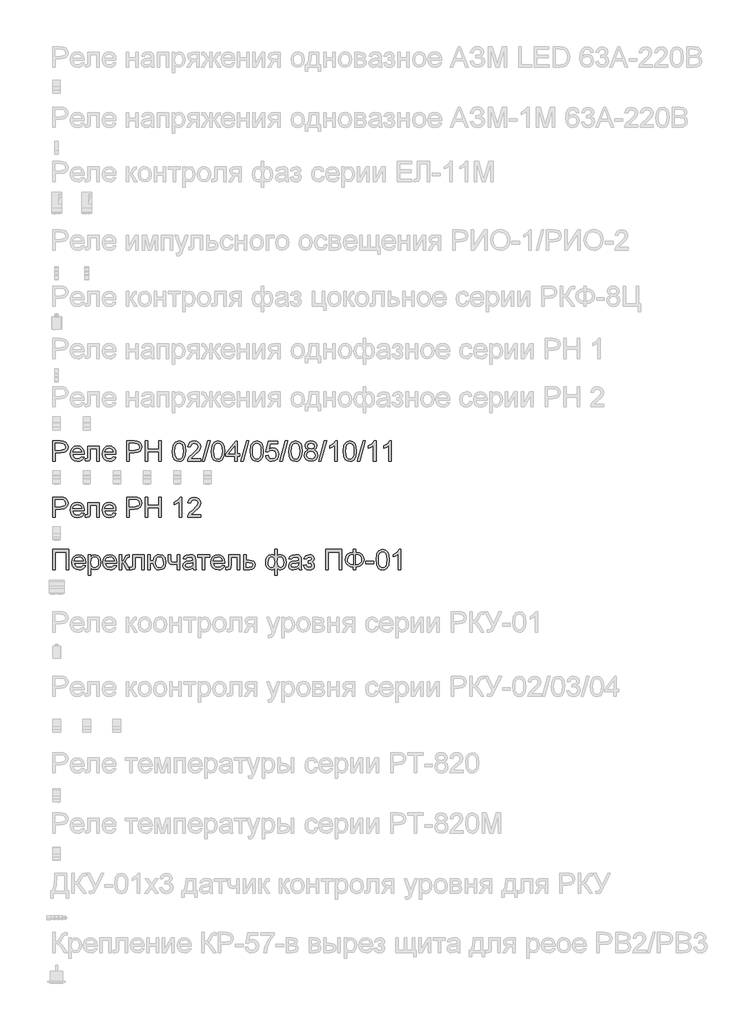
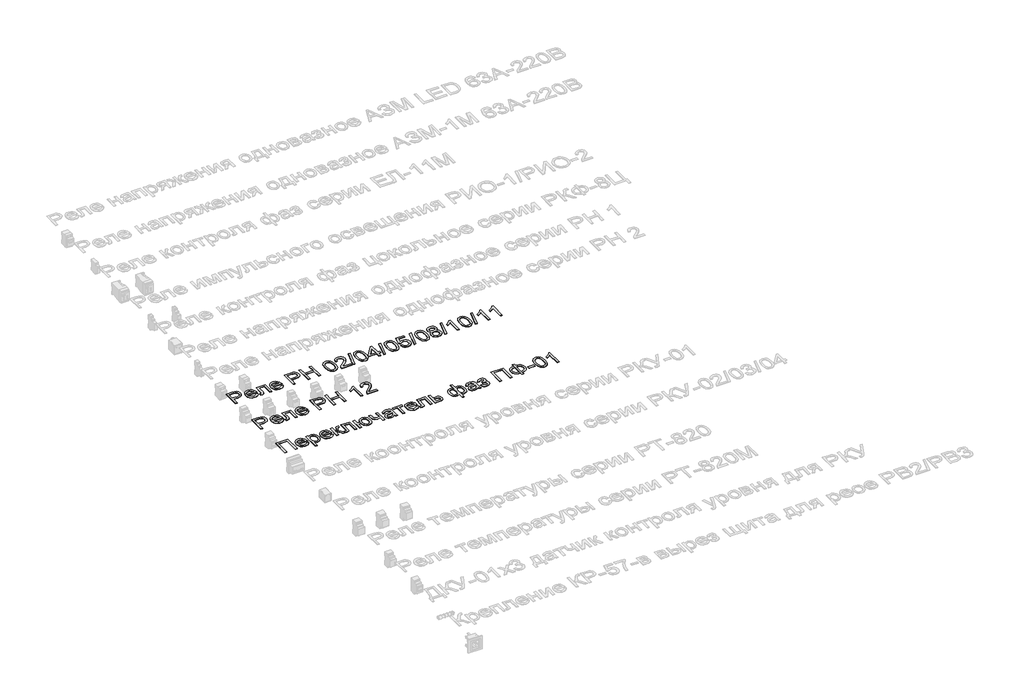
# One storey, part 4 of 34: 3 proxies.
"""IFC4 building model written with IfcOpenShell, lengths in millimetres."""

from ifc_helpers import new_model, si_unit, frame, origin, place, context, project, spatial, polyline, outline, extrude, element, save

model = new_model("IFC4")

# Units and contexts
model_context = context("Model", 3, world=origin())
ifc_project = project(units=[si_unit("LENGTHUNIT", "METRE", prefix="MILLI")], contexts=[model_context])

# Site, building, storey
site = spatial("IfcSite", under=ifc_project)
building = spatial("IfcBuilding", under=site)
storey = spatial("IfcBuildingStorey", under=building, Name="Этаж 01", Elevation=0.0)

# Proxies
placement = place(None, origin())
element("IfcBuildingElementProxy", 1, Name="Надпись на модели 1", ObjectType="Надпись на модели 1", at=placement, inside=storey, context=model_context, shape_type="SweptSolid", body=[
    extrude(outline(polyline([(-19039.0125911, 9936.235284), (-19039.0125911, 10036.6915941), (-19001.7829332, 10036.6915941), (-18986.7733478, 10035.735101), (-18974.5719283, 10031.0384742), (-18966.6624654, 10021.3263895), (-18963.6703585, 10007.6289165), (-18965.6906438, 9995.7892476), (-18971.7514996, 9985.9238788), (-18983.0853308, 9979.2652147), (-19000.9245418, 9977.04566), (-19026.4555523, 9977.04566), (-19026.4555523, 9936.235284), (-19039.0125911, 9936.235284)]), holes=[polyline([(-19026.4555523, 9989.6026988), (-19000.1887779, 9989.6026988), (-18981.6965762, 9994.2134864), (-18977.594692, 9999.7623732), (-18976.2273972, 10007.1874581), (-18979.4524961, 10017.5862559), (-18987.9260447, 10023.2761641), (-19000.4830834, 10024.1345554), (-19026.4555523, 10024.1345554), (-19026.4555523, 9989.6026988)])]), frame((0.0, 0.0, 40.0), z_axis=(0.0, 0.0, 1.0), x_axis=(1.0, 0.0, 0.0)), (0.0, 0.0, 1.0), 2.0),
    extrude(outline(polyline([(-18896.3234279, 9958.2101018), (-18884.0116438, 9956.640472), (-18888.4476875, 9947.3637143), (-18895.5263502, 9940.4291387), (-18905.0882164, 9936.1065253), (-18916.9738705, 9934.6656541), (-18931.7075445, 9937.1519233), (-18943.0444413, 9944.6107308), (-18950.2733225, 9956.5576985), (-18952.6829495, 9972.5084487), (-18950.248797, 9988.9956935), (-18942.9463394, 10001.3258717), (-18931.7627268, 10009.0146054), (-18917.6851091, 10011.5775166), (-18904.0458841, 10009.0207367), (-18893.14738, 10001.3503971), (-18886.0012722, 9989.0447444), (-18883.6192363, 9972.5820251), (-18883.6928127, 9969.1975108), (-18940.1259108, 9969.1975108), (-18937.9523413, 9959.7981258), (-18932.9031609, 9952.8880756), (-18925.6160317, 9948.6390386), (-18916.7286159, 9947.2226929), (-18904.4168318, 9949.8469178), (-18896.3234279, 9958.2101018)]), holes=[polyline([(-18940.1259108, 9981.7545495), (-18896.1762751, 9981.7545495), (-18901.2039957, 9993.1343659), (-18908.5248474, 9997.5489499), (-18917.73416, 9999.0204778), (-18933.1974665, 9994.323851), (-18938.0627059, 9988.8332123), (-18940.1259108, 9981.7545495)])]), frame((0.0, 0.0, 40.0), z_axis=(0.0, 0.0, 1.0), x_axis=(1.0, 0.0, 0.0)), (0.0, 0.0, 1.0), 2.0),
    extrude(outline(polyline([(-18864.7836782, 10010.0078868), (-18808.2770037, 10010.0078868), (-18808.2770037, 9936.3088604), (-18820.8340425, 9936.3088604), (-18820.8340425, 9997.450848), (-18852.2266394, 9997.450848), (-18852.2266394, 9962.2568038), (-18853.072768, 9946.0209451), (-18857.7203439, 9939.1660772), (-18868.7077528, 9936.235284), (-18878.9103468, 9936.8729461), (-18878.9103468, 9948.7923228), (-18873.294015, 9948.7923228), (-18867.6163695, 9949.564875), (-18865.3477639, 9952.0174216), (-18864.7836782, 9962.9680423), (-18864.7836782, 10010.0078868)])), frame((0.0, 0.0, 40.0), z_axis=(0.0, 0.0, 1.0), x_axis=(1.0, 0.0, 0.0)), (0.0, 0.0, 1.0), 2.0),
    extrude(outline(polyline([(-18737.7908134, 9958.2101018), (-18725.4790293, 9956.640472), (-18729.915073, 9947.3637143), (-18736.9937358, 9940.4291387), (-18746.555602, 9936.1065253), (-18758.4412561, 9934.6656541), (-18773.17493, 9937.1519233), (-18784.5118268, 9944.6107308), (-18791.740708, 9956.5576985), (-18794.1503351, 9972.5084487), (-18791.7161826, 9988.9956935), (-18784.4137249, 10001.3258717), (-18773.2301123, 10009.0146054), (-18759.1524946, 10011.5775166), (-18745.5132696, 10009.0207367), (-18734.6147655, 10001.3503971), (-18727.4686578, 9989.0447444), (-18725.0866219, 9972.5820251), (-18725.1601983, 9969.1975108), (-18781.5932963, 9969.1975108), (-18779.4197269, 9959.7981258), (-18774.3705465, 9952.8880756), (-18767.0834173, 9948.6390386), (-18758.1960014, 9947.2226929), (-18745.8842173, 9949.8469178), (-18737.7908134, 9958.2101018)]), holes=[polyline([(-18781.5932963, 9981.7545495), (-18737.6436606, 9981.7545495), (-18742.6713812, 9993.1343659), (-18749.9922329, 9997.5489499), (-18759.2015455, 9999.0204778), (-18774.6648521, 9994.323851), (-18779.5300915, 9988.8332123), (-18781.5932963, 9981.7545495)])]), frame((0.0, 0.0, 40.0), z_axis=(0.0, 0.0, 1.0), x_axis=(1.0, 0.0, 0.0)), (0.0, 0.0, 1.0), 2.0),
    extrude(outline(polyline([(-18671.7192071, 9936.235284), (-18671.7192071, 10036.6915941), (-18634.4895492, 10036.6915941), (-18619.4799638, 10035.735101), (-18607.2785443, 10031.0384742), (-18599.3690814, 10021.3263895), (-18596.3769745, 10007.6289165), (-18598.3972598, 9995.7892476), (-18604.4581156, 9985.9238788), (-18615.7919468, 9979.2652147), (-18633.6311579, 9977.04566), (-18659.1621683, 9977.04566), (-18659.1621683, 9936.235284), (-18671.7192071, 9936.235284)]), holes=[polyline([(-18659.1621683, 9989.6026988), (-18632.8953939, 9989.6026988), (-18614.4031922, 9994.2134864), (-18610.301308, 9999.7623732), (-18608.9340132, 10007.1874581), (-18612.1591121, 10017.5862559), (-18620.6326607, 10023.2761641), (-18633.1896995, 10024.1345554), (-18659.1621683, 10024.1345554), (-18659.1621683, 9989.6026988)])]), frame((0.0, 0.0, 40.0), z_axis=(0.0, 0.0, 1.0), x_axis=(1.0, 0.0, 0.0)), (0.0, 0.0, 1.0), 2.0),
    extrude(outline(polyline([(-18579.1110462, 9936.235284), (-18579.1110462, 10036.6915941), (-18566.5540074, 10036.6915941), (-18566.5540074, 9995.8812181), (-18513.1865926, 9995.8812181), (-18513.1865926, 10036.6915941), (-18500.6295539, 10036.6915941), (-18500.6295539, 9936.235284), (-18513.1865926, 9936.235284), (-18513.1865926, 9983.3241794), (-18566.5540074, 9983.3241794), (-18566.5540074, 9936.235284), (-18579.1110462, 9936.235284)])), frame((0.0, 0.0, 40.0), z_axis=(0.0, 0.0, 1.0), x_axis=(1.0, 0.0, 0.0)), (0.0, 0.0, 1.0), 2.0),
    extrude(outline(polyline([(-18444.1228794, 9985.6540987), (-18440.4317967, 10014.5573608), (-18429.4689133, 10031.2224151), (-18411.1606526, 10036.6915941), (-18396.4944238, 10033.4542326), (-18386.3654062, 10024.1222926), (-18380.4792942, 10009.25986), (-18378.1984259, 9985.6540987), (-18381.8527204, 9956.8734639), (-18392.7788156, 9940.1716213), (-18401.0101753, 9936.0421459), (-18411.1606526, 9934.6656541), (-18424.2082007, 9937.0568871), (-18434.1164891, 9944.230586), (-18441.6212818, 9961.2206028), (-18444.1228794, 9985.6540987)]), holes=[polyline([(-18431.5658406, 9985.6786241), (-18430.0943127, 9965.9264267), (-18425.6797287, 9954.4944937), (-18419.1069037, 9949.0406431), (-18411.1606526, 9947.2226929), (-18403.2144015, 9949.0467745), (-18396.6415766, 9954.5190192), (-18392.2269926, 9965.9570835), (-18390.7554646, 9985.6786241), (-18392.1779417, 10004.9862975), (-18396.4453728, 10016.5071353), (-18403.0059351, 10022.2277004), (-18411.3078054, 10024.1345554), (-18419.1682174, 10022.4545609), (-18425.483525, 10017.4145776), (-18430.0452617, 10005.1763699), (-18431.5658406, 9985.6786241)])]), frame((0.0, 0.0, 40.0), z_axis=(0.0, 0.0, 1.0), x_axis=(1.0, 0.0, 0.0)), (0.0, 0.0, 1.0), 2.0),
    extrude(outline(polyline([(-18302.8561933, 9948.7923228), (-18302.8561933, 9936.235284), (-18368.7806468, 9936.235284), (-18367.4317461, 9944.8927736), (-18359.8043261, 9958.2223646), (-18344.0835022, 9972.7782288), (-18322.4029899, 9993.6984516), (-18316.9828619, 10007.9232221), (-18322.0964216, 10019.4379286), (-18335.450538, 10024.1345554), (-18349.3687402, 10019.5482932), (-18354.6539782, 10006.8686271), (-18367.211017, 10008.4382569), (-18364.1667934, 10020.5844941), (-18357.5847714, 10029.4565816), (-18347.8083074, 10034.882841), (-18335.1807579, 10036.6915941), (-18322.4612379, 10034.6805059), (-18312.703168, 10028.6472412), (-18306.4951593, 10019.6341323), (-18304.4258231, 10008.6835116), (-18306.6576405, 9996.7763977), (-18314.0765941, 9984.4646136), (-18332.0660237, 9967.2599989), (-18346.5115234, 9955.1812067), (-18352.1769061, 9948.7923228), (-18302.8561933, 9948.7923228)])), frame((0.0, 0.0, 40.0), z_axis=(0.0, 0.0, 1.0), x_axis=(1.0, 0.0, 0.0)), (0.0, 0.0, 1.0), 2.0),
    extrude(outline(polyline([(-18296.5776739, 9936.235284), (-18268.3243366, 10036.6915941), (-18256.9935712, 10036.6915941), (-18285.2469084, 9936.235284), (-18296.5776739, 9936.235284)])), frame((0.0, 0.0, 40.0), z_axis=(0.0, 0.0, 1.0), x_axis=(1.0, 0.0, 0.0)), (0.0, 0.0, 1.0), 2.0),
    extrude(outline(polyline([(-18251.0584083, 9985.6540987), (-18247.3673257, 10014.5573608), (-18236.4044422, 10031.2224151), (-18218.0961816, 10036.6915941), (-18203.4299527, 10033.4542326), (-18193.3009351, 10024.1222926), (-18187.4148232, 10009.25986), (-18185.1339548, 9985.6540987), (-18188.7882493, 9956.8734639), (-18199.7143445, 9940.1716213), (-18207.9457042, 9936.0421459), (-18218.0961816, 9934.6656541), (-18231.1437297, 9937.0568871), (-18241.0520181, 9944.230586), (-18248.5568108, 9961.2206028), (-18251.0584083, 9985.6540987)]), holes=[polyline([(-18238.5013696, 9985.6786241), (-18237.0298416, 9965.9264267), (-18232.6152576, 9954.4944937), (-18226.0424327, 9949.0406431), (-18218.0961816, 9947.2226929), (-18210.1499305, 9949.0467745), (-18203.5771055, 9954.5190192), (-18199.1625216, 9965.9570835), (-18197.6909936, 9985.6786241), (-18199.1134706, 10004.9862975), (-18203.3809018, 10016.5071353), (-18209.941464, 10022.2277004), (-18218.2433344, 10024.1345554), (-18226.1037463, 10022.4545609), (-18232.4190539, 10017.4145776), (-18236.9807907, 10005.1763699), (-18238.5013696, 9985.6786241)])]), frame((0.0, 0.0, 40.0), z_axis=(0.0, 0.0, 1.0), x_axis=(1.0, 0.0, 0.0)), (0.0, 0.0, 1.0), 2.0),
    extrude(outline(polyline([(-18133.3361699, 9936.235284), (-18133.3361699, 9959.7797317), (-18178.8554354, 9959.7797317), (-18178.8554354, 9972.3367705), (-18130.1969102, 10035.1219643), (-18120.7791311, 10035.1219643), (-18120.7791311, 9972.3367705), (-18108.2220923, 9972.3367705), (-18108.2220923, 9959.7797317), (-18120.7791311, 9959.7797317), (-18120.7791311, 9936.235284), (-18133.3361699, 9936.235284)]), holes=[polyline([(-18133.3361699, 9972.3367705), (-18133.3361699, 10011.1360582), (-18163.4043916, 9972.3367705), (-18133.3361699, 9972.3367705)])]), frame((0.0, 0.0, 40.0), z_axis=(0.0, 0.0, 1.0), x_axis=(1.0, 0.0, 0.0)), (0.0, 0.0, 1.0), 2.0),
    extrude(outline(polyline([(-18103.5132028, 9936.235284), (-18075.2598656, 10036.6915941), (-18063.9291001, 10036.6915941), (-18092.1824374, 9936.235284), (-18103.5132028, 9936.235284)])), frame((0.0, 0.0, 40.0), z_axis=(0.0, 0.0, 1.0), x_axis=(1.0, 0.0, 0.0)), (0.0, 0.0, 1.0), 2.0),
    extrude(outline(polyline([(-18057.9939373, 9985.6540987), (-18054.3028546, 10014.5573608), (-18043.3399711, 10031.2224151), (-18025.0317105, 10036.6915941), (-18010.3654816, 10033.4542326), (-18000.236464, 10024.1222926), (-17994.3503521, 10009.25986), (-17992.0694837, 9985.6540987), (-17995.7237782, 9956.8734639), (-18006.6498735, 9940.1716213), (-18014.8812331, 9936.0421459), (-18025.0317105, 9934.6656541), (-18038.0792586, 9937.0568871), (-18047.987547, 9944.230586), (-18055.4923397, 9961.2206028), (-18057.9939373, 9985.6540987)]), holes=[polyline([(-18045.4368985, 9985.6786241), (-18043.9653705, 9965.9264267), (-18039.5507866, 9954.4944937), (-18032.9779616, 9949.0406431), (-18025.0317105, 9947.2226929), (-18017.0854594, 9949.0467745), (-18010.5126344, 9954.5190192), (-18006.0980505, 9965.9570835), (-18004.6265225, 9985.6786241), (-18006.0489996, 10004.9862975), (-18010.3164307, 10016.5071353), (-18016.8769929, 10022.2277004), (-18025.1788633, 10024.1345554), (-18033.0392753, 10022.4545609), (-18039.3545829, 10017.4145776), (-18043.9163196, 10005.1763699), (-18045.4368985, 9985.6786241)])]), frame((0.0, 0.0, 40.0), z_axis=(0.0, 0.0, 1.0), x_axis=(1.0, 0.0, 0.0)), (0.0, 0.0, 1.0), 2.0),
    extrude(outline(polyline([(-17981.0820748, 9962.9189914), (-17968.525036, 9964.4886212), (-17962.1974657, 9951.5514377), (-17949.0763412, 9947.2226929), (-17940.0754951, 9948.7279434), (-17933.3309918, 9953.2436949), (-17929.118743, 9960.2487812), (-17927.71466, 9969.2220362), (-17932.9753726, 9984.1335198), (-17939.5819201, 9988.235404), (-17948.8801375, 9989.6026988), (-17959.9043346, 9987.4199323), (-17966.9554062, 9981.7545495), (-17979.512445, 9983.3241794), (-17968.525036, 10035.1219643), (-17919.8665108, 10035.1219643), (-17919.8665108, 10022.5649255), (-17958.371493, 10022.5649255), (-17963.7425701, 9994.9001995), (-17954.7723808, 10000.344853), (-17945.3729958, 10002.1597375), (-17933.6406259, 9999.909526), (-17923.90095, 9993.1588914), (-17917.3434535, 9982.8704582), (-17915.1576213, 9970.0068512), (-17917.12579, 9957.4498124), (-17923.030296, 9946.7076581), (-17934.336536, 9937.6761551), (-17949.1253922, 9934.6656541), (-17961.4586361, 9936.6001003), (-17971.284151, 9942.4034388), (-17978.0194572, 9951.4012192), (-17981.0820748, 9962.9189914)])), frame((0.0, 0.0, 40.0), z_axis=(0.0, 0.0, 1.0), x_axis=(1.0, 0.0, 0.0)), (0.0, 0.0, 1.0), 2.0),
    extrude(outline(polyline([(-17910.4487317, 9936.235284), (-17882.1953945, 10036.6915941), (-17870.8646291, 10036.6915941), (-17899.1179663, 9936.235284), (-17910.4487317, 9936.235284)])), frame((0.0, 0.0, 40.0), z_axis=(0.0, 0.0, 1.0), x_axis=(1.0, 0.0, 0.0)), (0.0, 0.0, 1.0), 2.0),
    extrude(outline(polyline([(-17864.9294662, 9985.6540987), (-17861.2383835, 10014.5573608), (-17850.2755001, 10031.2224151), (-17831.9672394, 10036.6915941), (-17817.3010106, 10033.4542326), (-17807.171993, 10024.1222926), (-17801.285881, 10009.25986), (-17799.0050127, 9985.6540987), (-17802.6593072, 9956.8734639), (-17813.5854024, 9940.1716213), (-17821.8167621, 9936.0421459), (-17831.9672394, 9934.6656541), (-17845.0147875, 9937.0568871), (-17854.9230759, 9944.230586), (-17862.4278686, 9961.2206028), (-17864.9294662, 9985.6540987)]), holes=[polyline([(-17852.3724274, 9985.6786241), (-17850.9008995, 9965.9264267), (-17846.4863155, 9954.4944937), (-17839.9134905, 9949.0406431), (-17831.9672394, 9947.2226929), (-17824.0209883, 9949.0467745), (-17817.4481634, 9954.5190192), (-17813.0335794, 9965.9570835), (-17811.5620514, 9985.6786241), (-17812.9845285, 10004.9862975), (-17817.2519596, 10016.5071353), (-17823.8125219, 10022.2277004), (-17832.1143922, 10024.1345554), (-17839.9748042, 10022.4545609), (-17846.2901118, 10017.4145776), (-17850.8518485, 10005.1763699), (-17852.3724274, 9985.6786241)])]), frame((0.0, 0.0, 40.0), z_axis=(0.0, 0.0, 1.0), x_axis=(1.0, 0.0, 0.0)), (0.0, 0.0, 1.0), 2.0),
    extrude(outline(polyline([(-17769.7216059, 9991.5647361), (-17781.1627359, 9999.3638344), (-17784.8783441, 10011.5039402), (-17782.8549931, 10021.3202581), (-17776.7849402, 10029.4320561), (-17767.348767, 10034.8767096), (-17755.2270552, 10036.6915941), (-17743.0317671, 10034.8337901), (-17733.4729666, 10029.2603778), (-17727.2925491, 10021.0198211), (-17725.2324099, 10011.1605837), (-17728.8989671, 9999.3270462), (-17740.0212661, 9991.5647361), (-17726.6671497, 9981.7177613), (-17722.0931502, 9965.4696399), (-17724.3617558, 9953.4644241), (-17731.1675728, 9943.543873), (-17741.6767351, 9936.8852089), (-17755.055377, 9934.6656541), (-17768.4340189, 9936.8944059), (-17778.9431812, 9943.5806612), (-17785.7489981, 9953.5962485), (-17788.0176037, 9965.8129964), (-17783.2596633, 9982.4412626), (-17769.7216059, 9991.5647361)]), holes=[polyline([(-17772.3213053, 10011.1360582), (-17767.8699331, 10001.2768207), (-17754.9082242, 9997.450848), (-17742.2040326, 10001.2522953), (-17737.7894487, 10010.5719725), (-17742.3511854, 10020.2227435), (-17755.055377, 10024.1345554), (-17767.7963567, 10020.3085826), (-17772.3213053, 10011.1360582)]), polyline([(-17775.460565, 9966.2544548), (-17773.3636376, 9956.7998875), (-17765.944684, 9949.7242905), (-17754.9572751, 9947.2226929), (-17746.4101501, 9948.537871), (-17739.9967406, 9952.4834054), (-17734.650189, 9965.8620473), (-17740.1684189, 9979.4982066), (-17746.7289812, 9983.5449086), (-17755.374208, 9984.8938092), (-17763.8017714, 9983.5633027), (-17770.1508015, 9979.571783), (-17775.460565, 9966.2544548)])]), frame((0.0, 0.0, 40.0), z_axis=(0.0, 0.0, 1.0), x_axis=(1.0, 0.0, 0.0)), (0.0, 0.0, 1.0), 2.0),
    extrude(outline(polyline([(-17717.3842607, 9936.235284), (-17689.1309234, 10036.6915941), (-17677.800158, 10036.6915941), (-17706.0534952, 9936.235284), (-17717.3842607, 9936.235284)])), frame((0.0, 0.0, 40.0), z_axis=(0.0, 0.0, 1.0), x_axis=(1.0, 0.0, 0.0)), (0.0, 0.0, 1.0), 2.0),
    extrude(outline(polyline([(-17624.7760998, 9936.235284), (-17637.3331385, 9936.235284), (-17637.3331385, 10014.5205726), (-17649.2279897, 10006.0470239), (-17662.4472161, 9999.7071909), (-17662.4472161, 10011.5775166), (-17644.0408536, 10023.325215), (-17632.8695036, 10036.6915941), (-17624.7760998, 10036.6915941), (-17624.7760998, 9936.235284)])), frame((0.0, 0.0, 40.0), z_axis=(0.0, 0.0, 1.0), x_axis=(1.0, 0.0, 0.0)), (0.0, 0.0, 1.0), 2.0),
    extrude(outline(polyline([(-17594.9531327, 9985.6540987), (-17591.26205, 10014.5573608), (-17580.2991665, 10031.2224151), (-17561.9909059, 10036.6915941), (-17547.324677, 10033.4542326), (-17537.1956594, 10024.1222926), (-17531.3095475, 10009.25986), (-17529.0286791, 9985.6540987), (-17532.6829736, 9956.8734639), (-17543.6090689, 9940.1716213), (-17551.8404285, 9936.0421459), (-17561.9909059, 9934.6656541), (-17575.038454, 9937.0568871), (-17584.9467424, 9944.230586), (-17592.4515351, 9961.2206028), (-17594.9531327, 9985.6540987)]), holes=[polyline([(-17582.3960939, 9985.6786241), (-17580.9245659, 9965.9264267), (-17576.509982, 9954.4944937), (-17569.937157, 9949.0406431), (-17561.9909059, 9947.2226929), (-17554.0446548, 9949.0467745), (-17547.4718298, 9954.5190192), (-17543.0572459, 9965.9570835), (-17541.5857179, 9985.6786241), (-17543.008195, 10004.9862975), (-17547.2756261, 10016.5071353), (-17553.8361883, 10022.2277004), (-17562.1380587, 10024.1345554), (-17569.9984707, 10022.4545609), (-17576.3137783, 10017.4145776), (-17580.875515, 10005.1763699), (-17582.3960939, 9985.6786241)])]), frame((0.0, 0.0, 40.0), z_axis=(0.0, 0.0, 1.0), x_axis=(1.0, 0.0, 0.0)), (0.0, 0.0, 1.0), 2.0),
    extrude(outline(polyline([(-17524.3197896, 9936.235284), (-17496.0664524, 10036.6915941), (-17484.7356869, 10036.6915941), (-17512.9890242, 9936.235284), (-17524.3197896, 9936.235284)])), frame((0.0, 0.0, 40.0), z_axis=(0.0, 0.0, 1.0), x_axis=(1.0, 0.0, 0.0)), (0.0, 0.0, 1.0), 2.0),
    extrude(outline(polyline([(-17431.7116287, 9936.235284), (-17444.2686675, 9936.235284), (-17444.2686675, 10014.5205726), (-17456.1635186, 10006.0470239), (-17469.382745, 9999.7071909), (-17469.382745, 10011.5775166), (-17450.9763825, 10023.325215), (-17439.8050326, 10036.6915941), (-17431.7116287, 10036.6915941), (-17431.7116287, 9936.235284)])), frame((0.0, 0.0, 40.0), z_axis=(0.0, 0.0, 1.0), x_axis=(1.0, 0.0, 0.0)), (0.0, 0.0, 1.0), 2.0),
    extrude(outline(polyline([(-17354.7997662, 9936.235284), (-17367.356805, 9936.235284), (-17367.356805, 10014.5205726), (-17379.2516562, 10006.0470239), (-17392.4708825, 9999.7071909), (-17392.4708825, 10011.5775166), (-17374.06452, 10023.325215), (-17362.8931701, 10036.6915941), (-17354.7997662, 10036.6915941), (-17354.7997662, 9936.235284)])), frame((0.0, 0.0, 40.0), z_axis=(0.0, 0.0, 1.0), x_axis=(1.0, 0.0, 0.0)), (0.0, 0.0, 1.0), 2.0),
])
element("IfcBuildingElementProxy", 2, Name="Надпись на модели 1", ObjectType="Надпись на модели 1", at=placement, inside=storey, context=model_context, shape_type="SweptSolid", body=[
    extrude(outline(polyline([(-19039.0125911, 9656.235284), (-19039.0125911, 9756.6915941), (-19001.7829332, 9756.6915941), (-18986.7733478, 9755.735101), (-18974.5719283, 9751.0384742), (-18966.6624654, 9741.3263895), (-18963.6703585, 9727.6289165), (-18965.6906438, 9715.7892476), (-18971.7514996, 9705.9238788), (-18983.0853308, 9699.2652147), (-19000.9245418, 9697.04566), (-19026.4555523, 9697.04566), (-19026.4555523, 9656.235284), (-19039.0125911, 9656.235284)]), holes=[polyline([(-19026.4555523, 9709.6026988), (-19000.1887779, 9709.6026988), (-18981.6965762, 9714.2134864), (-18977.594692, 9719.7623732), (-18976.2273972, 9727.1874581), (-18979.4524961, 9737.5862559), (-18987.9260447, 9743.2761641), (-19000.4830834, 9744.1345554), (-19026.4555523, 9744.1345554), (-19026.4555523, 9709.6026988)])]), frame((0.0, 0.0, 40.0), z_axis=(0.0, 0.0, 1.0), x_axis=(1.0, 0.0, 0.0)), (0.0, 0.0, 1.0), 2.0),
    extrude(outline(polyline([(-18896.3234279, 9678.2101018), (-18884.0116438, 9676.640472), (-18888.4476875, 9667.3637143), (-18895.5263502, 9660.4291387), (-18905.0882164, 9656.1065253), (-18916.9738705, 9654.6656541), (-18931.7075445, 9657.1519233), (-18943.0444413, 9664.6107308), (-18950.2733225, 9676.5576985), (-18952.6829495, 9692.5084487), (-18950.248797, 9708.9956935), (-18942.9463394, 9721.3258717), (-18931.7627268, 9729.0146054), (-18917.6851091, 9731.5775166), (-18904.0458841, 9729.0207367), (-18893.14738, 9721.3503971), (-18886.0012722, 9709.0447444), (-18883.6192363, 9692.5820251), (-18883.6928127, 9689.1975108), (-18940.1259108, 9689.1975108), (-18937.9523413, 9679.7981258), (-18932.9031609, 9672.8880756), (-18925.6160317, 9668.6390386), (-18916.7286159, 9667.2226929), (-18904.4168318, 9669.8469178), (-18896.3234279, 9678.2101018)]), holes=[polyline([(-18940.1259108, 9701.7545495), (-18896.1762751, 9701.7545495), (-18901.2039957, 9713.1343659), (-18908.5248474, 9717.5489499), (-18917.73416, 9719.0204778), (-18933.1974665, 9714.323851), (-18938.0627059, 9708.8332123), (-18940.1259108, 9701.7545495)])]), frame((0.0, 0.0, 40.0), z_axis=(0.0, 0.0, 1.0), x_axis=(1.0, 0.0, 0.0)), (0.0, 0.0, 1.0), 2.0),
    extrude(outline(polyline([(-18864.7836782, 9730.0078868), (-18808.2770037, 9730.0078868), (-18808.2770037, 9656.3088604), (-18820.8340425, 9656.3088604), (-18820.8340425, 9717.450848), (-18852.2266394, 9717.450848), (-18852.2266394, 9682.2568038), (-18853.072768, 9666.0209451), (-18857.7203439, 9659.1660772), (-18868.7077528, 9656.235284), (-18878.9103468, 9656.8729461), (-18878.9103468, 9668.7923228), (-18873.294015, 9668.7923228), (-18867.6163695, 9669.564875), (-18865.3477639, 9672.0174216), (-18864.7836782, 9682.9680423), (-18864.7836782, 9730.0078868)])), frame((0.0, 0.0, 40.0), z_axis=(0.0, 0.0, 1.0), x_axis=(1.0, 0.0, 0.0)), (0.0, 0.0, 1.0), 2.0),
    extrude(outline(polyline([(-18737.7908134, 9678.2101018), (-18725.4790293, 9676.640472), (-18729.915073, 9667.3637143), (-18736.9937358, 9660.4291387), (-18746.555602, 9656.1065253), (-18758.4412561, 9654.6656541), (-18773.17493, 9657.1519233), (-18784.5118268, 9664.6107308), (-18791.740708, 9676.5576985), (-18794.1503351, 9692.5084487), (-18791.7161826, 9708.9956935), (-18784.4137249, 9721.3258717), (-18773.2301123, 9729.0146054), (-18759.1524946, 9731.5775166), (-18745.5132696, 9729.0207367), (-18734.6147655, 9721.3503971), (-18727.4686578, 9709.0447444), (-18725.0866219, 9692.5820251), (-18725.1601983, 9689.1975108), (-18781.5932963, 9689.1975108), (-18779.4197269, 9679.7981258), (-18774.3705465, 9672.8880756), (-18767.0834173, 9668.6390386), (-18758.1960014, 9667.2226929), (-18745.8842173, 9669.8469178), (-18737.7908134, 9678.2101018)]), holes=[polyline([(-18781.5932963, 9701.7545495), (-18737.6436606, 9701.7545495), (-18742.6713812, 9713.1343659), (-18749.9922329, 9717.5489499), (-18759.2015455, 9719.0204778), (-18774.6648521, 9714.323851), (-18779.5300915, 9708.8332123), (-18781.5932963, 9701.7545495)])]), frame((0.0, 0.0, 40.0), z_axis=(0.0, 0.0, 1.0), x_axis=(1.0, 0.0, 0.0)), (0.0, 0.0, 1.0), 2.0),
    extrude(outline(polyline([(-18671.7192071, 9656.235284), (-18671.7192071, 9756.6915941), (-18634.4895492, 9756.6915941), (-18619.4799638, 9755.735101), (-18607.2785443, 9751.0384742), (-18599.3690814, 9741.3263895), (-18596.3769745, 9727.6289165), (-18598.3972598, 9715.7892476), (-18604.4581156, 9705.9238788), (-18615.7919468, 9699.2652147), (-18633.6311579, 9697.04566), (-18659.1621683, 9697.04566), (-18659.1621683, 9656.235284), (-18671.7192071, 9656.235284)]), holes=[polyline([(-18659.1621683, 9709.6026988), (-18632.8953939, 9709.6026988), (-18614.4031922, 9714.2134864), (-18610.301308, 9719.7623732), (-18608.9340132, 9727.1874581), (-18612.1591121, 9737.5862559), (-18620.6326607, 9743.2761641), (-18633.1896995, 9744.1345554), (-18659.1621683, 9744.1345554), (-18659.1621683, 9709.6026988)])]), frame((0.0, 0.0, 40.0), z_axis=(0.0, 0.0, 1.0), x_axis=(1.0, 0.0, 0.0)), (0.0, 0.0, 1.0), 2.0),
    extrude(outline(polyline([(-18579.1110462, 9656.235284), (-18579.1110462, 9756.6915941), (-18566.5540074, 9756.6915941), (-18566.5540074, 9715.8812181), (-18513.1865926, 9715.8812181), (-18513.1865926, 9756.6915941), (-18500.6295539, 9756.6915941), (-18500.6295539, 9656.235284), (-18513.1865926, 9656.235284), (-18513.1865926, 9703.3241794), (-18566.5540074, 9703.3241794), (-18566.5540074, 9656.235284), (-18579.1110462, 9656.235284)])), frame((0.0, 0.0, 40.0), z_axis=(0.0, 0.0, 1.0), x_axis=(1.0, 0.0, 0.0)), (0.0, 0.0, 1.0), 2.0),
    extrude(outline(polyline([(-18397.033984, 9656.235284), (-18409.5910228, 9656.235284), (-18409.5910228, 9734.5205726), (-18421.485874, 9726.0470239), (-18434.7051003, 9719.7071909), (-18434.7051003, 9731.5775166), (-18416.2987378, 9743.325215), (-18405.1273879, 9756.6915941), (-18397.033984, 9756.6915941), (-18397.033984, 9656.235284)])), frame((0.0, 0.0, 40.0), z_axis=(0.0, 0.0, 1.0), x_axis=(1.0, 0.0, 0.0)), (0.0, 0.0, 1.0), 2.0),
    extrude(outline(polyline([(-18302.8561933, 9668.7923228), (-18302.8561933, 9656.235284), (-18368.7806468, 9656.235284), (-18367.4317461, 9664.8927736), (-18359.8043261, 9678.2223646), (-18344.0835022, 9692.7782288), (-18322.4029899, 9713.6984516), (-18316.9828619, 9727.9232221), (-18322.0964216, 9739.4379286), (-18335.450538, 9744.1345554), (-18349.3687402, 9739.5482932), (-18354.6539782, 9726.8686271), (-18367.211017, 9728.4382569), (-18364.1667934, 9740.5844941), (-18357.5847714, 9749.4565816), (-18347.8083074, 9754.882841), (-18335.1807579, 9756.6915941), (-18322.4612379, 9754.6805059), (-18312.703168, 9748.6472412), (-18306.4951593, 9739.6341323), (-18304.4258231, 9728.6835116), (-18306.6576405, 9716.7763977), (-18314.0765941, 9704.4646136), (-18332.0660237, 9687.2599989), (-18346.5115234, 9675.1812067), (-18352.1769061, 9668.7923228), (-18302.8561933, 9668.7923228)])), frame((0.0, 0.0, 40.0), z_axis=(0.0, 0.0, 1.0), x_axis=(1.0, 0.0, 0.0)), (0.0, 0.0, 1.0), 2.0),
])
element("IfcBuildingElementProxy", 3, Name="Надпись на модели 1", ObjectType="Надпись на модели 1", at=placement, inside=storey, context=model_context, shape_type="SweptSolid", body=[
    extrude(outline(polyline([(-19039.0125911, 9496.6915941), (-18960.5310988, 9496.6915941), (-18960.5310988, 9396.235284), (-18973.0881375, 9396.235284), (-18973.0881375, 9484.1345554), (-19026.4555523, 9484.1345554), (-19026.4555523, 9396.235284), (-19039.0125911, 9396.235284), (-19039.0125911, 9496.6915941)])), frame((0.0, 0.0, 40.0), z_axis=(0.0, 0.0, 1.0), x_axis=(1.0, 0.0, 0.0)), (0.0, 0.0, 1.0), 2.0),
    extrude(outline(polyline([(-18888.4752787, 9418.2101018), (-18876.1634945, 9416.640472), (-18880.5995383, 9407.3637143), (-18887.678201, 9400.4291387), (-18897.2400672, 9396.1065253), (-18909.1257213, 9394.6656541), (-18923.8593952, 9397.1519233), (-18935.196292, 9404.6107308), (-18942.4251732, 9416.5576985), (-18944.8348003, 9432.5084487), (-18942.4006478, 9448.9956935), (-18935.0981902, 9461.3258717), (-18923.9145775, 9469.0146054), (-18909.8369598, 9471.5775166), (-18896.1977349, 9469.0207367), (-18885.2992308, 9461.3503971), (-18878.153123, 9449.0447444), (-18875.7710871, 9432.5820251), (-18875.8446635, 9429.1975108), (-18932.2777615, 9429.1975108), (-18930.1041921, 9419.7981258), (-18925.0550117, 9412.8880756), (-18917.7678825, 9408.6390386), (-18908.8804667, 9407.2226929), (-18896.5686825, 9409.8469178), (-18888.4752787, 9418.2101018)]), holes=[polyline([(-18932.2777615, 9441.7545495), (-18888.3281259, 9441.7545495), (-18893.3558465, 9453.1343659), (-18900.6766982, 9457.5489499), (-18909.8860108, 9459.0204778), (-18925.3493173, 9454.323851), (-18930.2145567, 9448.8332123), (-18932.2777615, 9441.7545495)])]), frame((0.0, 0.0, 40.0), z_axis=(0.0, 0.0, 1.0), x_axis=(1.0, 0.0, 0.0)), (0.0, 0.0, 1.0), 2.0),
    extrude(outline(polyline([(-18863.2140483, 9367.9819468), (-18863.2140483, 9470.0078868), (-18850.6570095, 9470.0078868), (-18850.6570095, 9457.6961027), (-18841.9749945, 9468.1071631), (-18830.2518215, 9471.5775166), (-18814.3347939, 9466.7214743), (-18803.9359962, 9453.036264), (-18800.4288545, 9433.6856711), (-18804.3897173, 9413.3417968), (-18815.892161, 9399.4849083), (-18831.7724005, 9394.6656541), (-18842.6984957, 9397.890753), (-18850.6570095, 9406.0454705), (-18850.6570095, 9367.9819468), (-18863.2140483, 9367.9819468)]), holes=[polyline([(-18850.6570095, 9432.5329742), (-18849.2989118, 9421.2757851), (-18845.2246188, 9413.4031104), (-18839.2128138, 9408.7677973), (-18832.0421806, 9407.2226929), (-18824.7550514, 9408.8229796), (-18818.5899623, 9413.6238396), (-18814.3869105, 9421.7846886), (-18812.9858932, 9433.4649419), (-18814.353188, 9444.6608173), (-18818.4550722, 9452.6438566), (-18824.4576801, 9457.4263225), (-18831.5271458, 9459.0204778), (-18838.6242026, 9457.325155), (-18844.8567368, 9452.2391864), (-18849.2069413, 9443.9219876), (-18850.6570095, 9432.5329742)])]), frame((0.0, 0.0, 40.0), z_axis=(0.0, 0.0, 1.0), x_axis=(1.0, 0.0, 0.0)), (0.0, 0.0, 1.0), 2.0),
    extrude(outline(polyline([(-18734.6515537, 9418.2101018), (-18722.3397696, 9416.640472), (-18726.7758134, 9407.3637143), (-18733.8544761, 9400.4291387), (-18743.4163423, 9396.1065253), (-18755.3019964, 9394.6656541), (-18770.0356703, 9397.1519233), (-18781.3725671, 9404.6107308), (-18788.6014483, 9416.5576985), (-18791.0110754, 9432.5084487), (-18788.5769229, 9448.9956935), (-18781.2744653, 9461.3258717), (-18770.0908526, 9469.0146054), (-18756.0132349, 9471.5775166), (-18742.3740099, 9469.0207367), (-18731.4755058, 9461.3503971), (-18724.3293981, 9449.0447444), (-18721.9473622, 9432.5820251), (-18722.0209386, 9429.1975108), (-18778.4540366, 9429.1975108), (-18776.2804672, 9419.7981258), (-18771.2312868, 9412.8880756), (-18763.9441576, 9408.6390386), (-18755.0567417, 9407.2226929), (-18742.7449576, 9409.8469178), (-18734.6515537, 9418.2101018)]), holes=[polyline([(-18778.4540366, 9441.7545495), (-18734.5044009, 9441.7545495), (-18739.5321215, 9453.1343659), (-18746.8529732, 9457.5489499), (-18756.0622859, 9459.0204778), (-18771.5255924, 9454.323851), (-18776.3908318, 9448.8332123), (-18778.4540366, 9441.7545495)])]), frame((0.0, 0.0, 40.0), z_axis=(0.0, 0.0, 1.0), x_axis=(1.0, 0.0, 0.0)), (0.0, 0.0, 1.0), 2.0),
    extrude(outline(polyline([(-18641.89624, 9470.0078868), (-18585.3895656, 9470.0078868), (-18585.3895656, 9396.3088604), (-18597.9466043, 9396.3088604), (-18597.9466043, 9457.450848), (-18629.3392012, 9457.450848), (-18629.3392012, 9422.2568038), (-18630.1853298, 9406.0209451), (-18634.8329057, 9399.1660772), (-18645.8203146, 9396.235284), (-18656.0229086, 9396.8729461), (-18656.0229086, 9408.7923228), (-18650.4065768, 9408.7923228), (-18644.7289314, 9409.564875), (-18642.4603257, 9412.0174216), (-18641.89624, 9422.9680423), (-18641.89624, 9470.0078868)])), frame((0.0, 0.0, 40.0), z_axis=(0.0, 0.0, 1.0), x_axis=(1.0, 0.0, 0.0)), (0.0, 0.0, 1.0), 2.0),
    extrude(outline(polyline([(-18709.3903234, 9470.0078868), (-18696.8332846, 9470.0078868), (-18696.8332846, 9438.6152898), (-18688.4210497, 9440.8716327), (-18681.5293936, 9454.0172827), (-18675.8026972, 9465.3603109), (-18670.7504512, 9469.0513936), (-18661.565664, 9470.0078868), (-18659.1621683, 9470.0078868), (-18659.1621683, 9457.3772716), (-18662.5466827, 9457.450848), (-18668.6780493, 9456.1264728), (-18672.9945313, 9447.8613906), (-18678.0590401, 9438.9218582), (-18685.1591626, 9434.5440624), (-18677.237437, 9429.6573633), (-18669.4628642, 9419.3627988), (-18656.0229086, 9396.235284), (-18670.29673, 9396.235284), (-18683.4669055, 9418.8722894), (-18690.0887814, 9428.449484), (-18696.8332846, 9430.7671406), (-18696.8332846, 9396.235284), (-18709.3903234, 9396.235284), (-18709.3903234, 9470.0078868)])), frame((0.0, 0.0, 40.0), z_axis=(0.0, 0.0, 1.0), x_axis=(1.0, 0.0, 0.0)), (0.0, 0.0, 1.0), 2.0),
    extrude(outline(polyline([(-18566.5540074, 9470.0078868), (-18553.9969686, 9470.0078868), (-18553.9969686, 9441.7545495), (-18539.8703, 9441.7545495), (-18536.6114787, 9454.556843), (-18530.1214271, 9463.9255711), (-18520.810947, 9469.6645302), (-18509.0908398, 9471.5775166), (-18491.7145469, 9467.0770935), (-18481.2176473, 9454.6794703), (-18477.0851062, 9433.3913655), (-18479.2218874, 9416.640472), (-18485.6322312, 9404.5003662), (-18495.7030008, 9397.1243321), (-18508.8210596, 9394.6656541), (-18521.0807271, 9396.971048), (-18530.6364619, 9403.8872295), (-18537.0468057, 9414.8255875), (-18539.8703, 9429.1975108), (-18553.9969686, 9429.1975108), (-18553.9969686, 9396.235284), (-18566.5540074, 9396.235284), (-18566.5540074, 9470.0078868)]), holes=[polyline([(-18508.2814994, 9459.0204778), (-18516.2859984, 9457.3956657), (-18522.2978034, 9452.5212293), (-18527.3132613, 9434.2988078), (-18526.0501997, 9422.1617676), (-18522.2610152, 9413.7587297), (-18516.3565092, 9408.8567021), (-18508.7474832, 9407.2226929), (-18501.1169975, 9408.7340748), (-18495.0009593, 9413.2682204), (-18490.9818485, 9421.1684862), (-18489.6421449, 9432.7782288), (-18494.2774581, 9452.4599156), (-18500.096125, 9457.3803373), (-18508.2814994, 9459.0204778)])]), frame((0.0, 0.0, 40.0), z_axis=(0.0, 0.0, 1.0), x_axis=(1.0, 0.0, 0.0)), (0.0, 0.0, 1.0), 2.0),
    extrude(outline(polyline([(-18466.0976973, 9470.0078868), (-18453.5406585, 9470.0078868), (-18453.5406585, 9455.8566927), (-18452.5228516, 9442.5884154), (-18447.6300211, 9435.4024537), (-18437.9179364, 9432.3367705), (-18420.5784317, 9436.1382177), (-18420.5784317, 9470.0078868), (-18408.021393, 9470.0078868), (-18408.021393, 9396.235284), (-18420.5784317, 9396.235284), (-18420.5784317, 9424.0962138), (-18441.2779253, 9419.7797317), (-18455.5149585, 9424.2801548), (-18463.8904053, 9435.3043519), (-18466.0976973, 9449.6517497), (-18466.0976973, 9470.0078868)])), frame((0.0, 0.0, 40.0), z_axis=(0.0, 0.0, 1.0), x_axis=(1.0, 0.0, 0.0)), (0.0, 0.0, 1.0), 2.0),
    extrude(outline(polyline([(-18342.0969394, 9405.6530631), (-18354.2738335, 9397.1427262), (-18367.7260517, 9394.6656541), (-18378.2198857, 9396.1555762), (-18385.960736, 9400.6253425), (-18390.7340049, 9407.4127653), (-18392.3250945, 9415.8556571), (-18389.9215988, 9425.7884709), (-18383.6062912, 9432.998958), (-18374.8139115, 9437.1192364), (-18363.9491299, 9439.0076973), (-18342.1705158, 9443.3241794), (-18342.0969394, 9446.1200825), (-18345.5550302, 9455.3907088), (-18359.4364441, 9459.0204778), (-18372.1406357, 9456.6047194), (-18378.1984259, 9448.0330689), (-18390.7554646, 9449.6026988), (-18385.3230738, 9461.8654319), (-18374.3847159, 9469.0513936), (-18357.8177633, 9471.5775166), (-18342.5997115, 9469.3456992), (-18334.0035355, 9463.7416301), (-18330.1530373, 9455.2190306), (-18329.5399006, 9444.2316216), (-18329.5399006, 9428.6088996), (-18328.9022385, 9406.7934973), (-18326.400641, 9396.235284), (-18338.9576797, 9396.235284), (-18342.0969394, 9405.6530631)]), holes=[polyline([(-18342.0969394, 9430.7671406), (-18362.3549746, 9426.9166424), (-18373.1584425, 9424.8810287), (-18378.0512731, 9421.5700907), (-18379.7680557, 9416.7385739), (-18376.0279221, 9409.9450197), (-18365.0527759, 9407.2226929), (-18352.3485843, 9410.2270625), (-18344.1570786, 9417.4988633), (-18342.1705158, 9427.210948), (-18342.0969394, 9430.7671406)])]), frame((0.0, 0.0, 40.0), z_axis=(0.0, 0.0, 1.0), x_axis=(1.0, 0.0, 0.0)), (0.0, 0.0, 1.0), 2.0),
    extrude(outline(polyline([(-18318.5524917, 9470.0078868), (-18258.9065576, 9470.0078868), (-18258.9065576, 9457.450848), (-18282.4510053, 9457.450848), (-18282.4510053, 9396.235284), (-18295.008044, 9396.235284), (-18295.008044, 9457.450848), (-18318.5524917, 9457.450848), (-18318.5524917, 9470.0078868)])), frame((0.0, 0.0, 40.0), z_axis=(0.0, 0.0, 1.0), x_axis=(1.0, 0.0, 0.0)), (0.0, 0.0, 1.0), 2.0),
    extrude(outline(polyline([(-18196.2685165, 9418.2101018), (-18183.9567324, 9416.640472), (-18188.3927761, 9407.3637143), (-18195.4714389, 9400.4291387), (-18205.0333051, 9396.1065253), (-18216.9189592, 9394.6656541), (-18231.6526331, 9397.1519233), (-18242.9895299, 9404.6107308), (-18250.2184111, 9416.5576985), (-18252.6280382, 9432.5084487), (-18250.1938857, 9448.9956935), (-18242.891428, 9461.3258717), (-18231.7078154, 9469.0146054), (-18217.6301977, 9471.5775166), (-18203.9909727, 9469.0207367), (-18193.0924686, 9461.3503971), (-18185.9463609, 9449.0447444), (-18183.564325, 9432.5820251), (-18183.6379014, 9429.1975108), (-18240.0709994, 9429.1975108), (-18237.89743, 9419.7981258), (-18232.8482496, 9412.8880756), (-18225.5611204, 9408.6390386), (-18216.6737045, 9407.2226929), (-18204.3619204, 9409.8469178), (-18196.2685165, 9418.2101018)]), holes=[polyline([(-18240.0709994, 9441.7545495), (-18196.1213637, 9441.7545495), (-18201.1490843, 9453.1343659), (-18208.469936, 9457.5489499), (-18217.6792486, 9459.0204778), (-18233.1425552, 9454.323851), (-18238.0077946, 9448.8332123), (-18240.0709994, 9441.7545495)])]), frame((0.0, 0.0, 40.0), z_axis=(0.0, 0.0, 1.0), x_axis=(1.0, 0.0, 0.0)), (0.0, 0.0, 1.0), 2.0),
    extrude(outline(polyline([(-18164.7287668, 9470.0078868), (-18108.2220923, 9470.0078868), (-18108.2220923, 9396.3088604), (-18120.7791311, 9396.3088604), (-18120.7791311, 9457.450848), (-18152.171728, 9457.450848), (-18152.171728, 9422.2568038), (-18153.0178566, 9406.0209451), (-18157.6654325, 9399.1660772), (-18168.6528414, 9396.235284), (-18178.8554354, 9396.8729461), (-18178.8554354, 9408.7923228), (-18173.2391036, 9408.7923228), (-18167.5614582, 9409.564875), (-18165.2928525, 9412.0174216), (-18164.7287668, 9422.9680423), (-18164.7287668, 9470.0078868)])), frame((0.0, 0.0, 40.0), z_axis=(0.0, 0.0, 1.0), x_axis=(1.0, 0.0, 0.0)), (0.0, 0.0, 1.0), 2.0),
    extrude(outline(polyline([(-18089.3865342, 9470.0078868), (-18076.8294954, 9470.0078868), (-18076.8294954, 9443.3241794), (-18062.3594703, 9443.3241794), (-18049.8146942, 9441.7514838), (-18040.5318052, 9437.0333973), (-18034.7928461, 9429.5500643), (-18032.8798597, 9419.6816298), (-18034.5077376, 9410.6961121), (-18039.391371, 9403.1146773), (-18047.8557226, 9397.9551323), (-18060.2257547, 9396.235284), (-18089.3865342, 9396.235284), (-18089.3865342, 9470.0078868)]), holes=[polyline([(-18076.8294954, 9408.7923228), (-18065.1063225, 9408.7923228), (-18049.961847, 9411.4288104), (-18045.4368985, 9419.6571044), (-18048.7846247, 9427.3826263), (-18063.6102691, 9430.7671406), (-18076.8294954, 9430.7671406), (-18076.8294954, 9408.7923228)])]), frame((0.0, 0.0, 40.0), z_axis=(0.0, 0.0, 1.0), x_axis=(1.0, 0.0, 0.0)), (0.0, 0.0, 1.0), 2.0),
    extrude(outline(polyline([(-17935.5628093, 9496.6915941), (-17923.0057705, 9496.6915941), (-17923.0057705, 9462.920027), (-17915.0227312, 9469.4315383), (-17905.6662658, 9471.5775166), (-17894.6757912, 9468.8490585), (-17886.2298337, 9460.6636841), (-17880.8495595, 9448.3396372), (-17879.0561348, 9433.1951618), (-17880.9875153, 9417.5877681), (-17886.7816567, 9405.2974438), (-17895.4452777, 9397.3236016), (-17905.9850969, 9394.6656541), (-17913.6615678, 9395.8919275), (-17923.0057705, 9402.5873798), (-17923.0057705, 9367.9819468), (-17935.5628093, 9367.9819468), (-17935.5628093, 9402.5873798), (-17943.5826368, 9396.6522169), (-17953.0739922, 9394.6656541), (-17963.5954173, 9397.2040399), (-17972.6943653, 9404.8191972), (-17978.9851474, 9417.1616382), (-17981.0820748, 9433.8818748), (-17979.1844169, 9448.603286), (-17973.491443, 9460.7372605), (-17964.5917644, 9468.8674526), (-17953.0739922, 9471.5775166), (-17943.3496448, 9469.4315383), (-17935.5628093, 9462.920027), (-17935.5628093, 9496.6915941)]), holes=[polyline([(-17923.0793469, 9432.9008562), (-17918.8977549, 9412.45888), (-17908.413118, 9407.2226929), (-17901.9598547, 9408.8321766), (-17896.5305296, 9413.6606278), (-17892.8425126, 9421.8797247), (-17891.6131736, 9433.6611456), (-17896.1503849, 9452.7419585), (-17901.3313896, 9457.450848), (-17907.7999814, 9459.0204778), (-17914.4617112, 9457.3864686), (-17919.2411114, 9452.4844411), (-17923.0793469, 9432.9008562)]), polyline([(-17968.525036, 9434.151655), (-17967.2681059, 9421.8337395), (-17963.4973154, 9413.5257378), (-17957.8625896, 9408.7984541), (-17951.0138531, 9407.2226929), (-17944.1988391, 9408.7892571), (-17939.3519938, 9413.4889496), (-17935.4892329, 9432.2877195), (-17939.5481976, 9452.3372883), (-17944.6402975, 9457.3496804), (-17951.798668, 9459.0204778), (-17958.5186458, 9457.3895343), (-17963.8651974, 9452.4967038), (-17968.525036, 9434.151655)])]), frame((0.0, 0.0, 40.0), z_axis=(0.0, 0.0, 1.0), x_axis=(1.0, 0.0, 0.0)), (0.0, 0.0, 1.0), 2.0),
    extrude(outline(polyline([(-17816.270941, 9405.6530631), (-17828.447835, 9397.1427262), (-17841.9000533, 9394.6656541), (-17852.3938872, 9396.1555762), (-17860.1347375, 9400.6253425), (-17864.9080064, 9407.4127653), (-17866.499096, 9415.8556571), (-17864.0956003, 9425.7884709), (-17857.7802928, 9432.998958), (-17848.9879131, 9437.1192364), (-17838.1231315, 9439.0076973), (-17816.3445174, 9443.3241794), (-17816.270941, 9446.1200825), (-17819.7290317, 9455.3907088), (-17833.6104457, 9459.0204778), (-17846.3146372, 9456.6047194), (-17852.3724274, 9448.0330689), (-17864.9294662, 9449.6026988), (-17859.4970754, 9461.8654319), (-17848.5587174, 9469.0513936), (-17831.9917649, 9471.5775166), (-17816.773713, 9469.3456992), (-17808.1775371, 9463.7416301), (-17804.3270389, 9455.2190306), (-17803.7139022, 9444.2316216), (-17803.7139022, 9428.6088996), (-17803.0762401, 9406.7934973), (-17800.5746425, 9396.235284), (-17813.1316813, 9396.235284), (-17816.270941, 9405.6530631)]), holes=[polyline([(-17816.270941, 9430.7671406), (-17836.5289762, 9426.9166424), (-17847.3324441, 9424.8810287), (-17852.2252746, 9421.5700907), (-17853.9420573, 9416.7385739), (-17850.2019237, 9409.9450197), (-17839.2267775, 9407.2226929), (-17826.5225859, 9410.2270625), (-17818.3310801, 9417.4988633), (-17816.3445174, 9427.210948), (-17816.270941, 9430.7671406)])]), frame((0.0, 0.0, 40.0), z_axis=(0.0, 0.0, 1.0), x_axis=(1.0, 0.0, 0.0)), (0.0, 0.0, 1.0), 2.0),
    extrude(outline(polyline([(-17769.1820456, 9429.1975108), (-17769.1820456, 9441.7545495), (-17759.2737572, 9442.2450589), (-17754.2705621, 9444.857021), (-17751.9161173, 9450.3139373), (-17755.0676397, 9456.6537703), (-17763.1978318, 9459.0204778), (-17771.597804, 9456.6660331), (-17777.0301948, 9449.6026988), (-17791.1568634, 9451.1723286), (-17781.7145589, 9466.4762196), (-17764.4731561, 9471.5775166), (-17753.9762565, 9470.0232152), (-17746.0300054, 9465.3603109), (-17741.0268102, 9458.5391656), (-17739.3590785, 9450.510141), (-17741.7319174, 9442.7110427), (-17748.850434, 9436.677778), (-17740.5485636, 9428.8541542), (-17737.7894487, 9417.5969652), (-17739.5399538, 9408.3539301), (-17744.7914693, 9401.0300127), (-17753.1883759, 9396.2567438), (-17764.3750542, 9394.6656541), (-17775.3164779, 9396.1371821), (-17783.6888589, 9400.5517661), (-17789.4921974, 9407.909406), (-17792.7264933, 9418.2101018), (-17778.5998247, 9419.7797317), (-17772.9344419, 9410.5091054), (-17763.1733063, 9407.2226929), (-17754.0007819, 9410.3742153), (-17750.3464874, 9418.430831), (-17752.6150931, 9425.0281815), (-17757.4466099, 9428.5598486), (-17766.729499, 9429.2710872), (-17769.1820456, 9429.1975108)])), frame((0.0, 0.0, 40.0), z_axis=(0.0, 0.0, 1.0), x_axis=(1.0, 0.0, 0.0)), (0.0, 0.0, 1.0), 2.0),
    extrude(outline(polyline([(-17681.2827742, 9496.6915941), (-17602.8012819, 9496.6915941), (-17602.8012819, 9396.235284), (-17615.3583207, 9396.235284), (-17615.3583207, 9484.1345554), (-17668.7257354, 9484.1345554), (-17668.7257354, 9396.235284), (-17681.2827742, 9396.235284), (-17681.2827742, 9496.6915941)])), frame((0.0, 0.0, 40.0), z_axis=(0.0, 0.0, 1.0), x_axis=(1.0, 0.0, 0.0)), (0.0, 0.0, 1.0), 2.0),
    extrude(outline(polyline([(-17544.7249776, 9484.1345554), (-17544.7249776, 9496.6915941), (-17532.1679388, 9496.6915941), (-17532.1679388, 9484.1345554), (-17515.2484327, 9480.7377783), (-17502.3081836, 9472.6075862), (-17494.095218, 9460.829231), (-17491.3575628, 9446.4879645), (-17494.0093789, 9432.37969), (-17501.964827, 9420.5645466), (-17514.8192371, 9412.2872017), (-17532.1679388, 9408.7923228), (-17532.1679388, 9396.235284), (-17544.7249776, 9396.235284), (-17544.7249776, 9408.7923228), (-17560.770764, 9411.848809), (-17573.8857571, 9419.6448416), (-17582.6229545, 9431.4385252), (-17585.5353536, 9446.4879645), (-17582.6321515, 9461.5833891), (-17573.9225453, 9473.3188247), (-17560.8167492, 9481.050478), (-17544.7249776, 9484.1345554)]), holes=[polyline([(-17532.1679388, 9471.5775166), (-17532.1679388, 9421.3493615), (-17520.4202405, 9423.4248291), (-17511.4684452, 9428.4740095), (-17505.8030625, 9436.2393853), (-17503.9146016, 9446.4634391), (-17505.76934, 9456.5495371), (-17511.3335552, 9464.2934531), (-17520.2516279, 9469.4008815), (-17532.1679388, 9471.5775166)]), polyline([(-17544.7249776, 9471.5775166), (-17556.1507792, 9469.5664284), (-17565.1669538, 9464.5632332), (-17571.0254746, 9456.7886604), (-17572.9783148, 9446.4634391), (-17571.05, 9436.2148598), (-17565.2650557, 9428.4249586), (-17556.2734066, 9423.3757782), (-17544.7249776, 9421.3493615), (-17544.7249776, 9471.5775166)])]), frame((0.0, 0.0, 40.0), z_axis=(0.0, 0.0, 1.0), x_axis=(1.0, 0.0, 0.0)), (0.0, 0.0, 1.0), 2.0),
    extrude(outline(polyline([(-17481.9397838, 9426.0582511), (-17481.9397838, 9438.6152898), (-17442.6990376, 9438.6152898), (-17442.6990376, 9426.0582511), (-17481.9397838, 9426.0582511)])), frame((0.0, 0.0, 40.0), z_axis=(0.0, 0.0, 1.0), x_axis=(1.0, 0.0, 0.0)), (0.0, 0.0, 1.0), 2.0),
    extrude(outline(polyline([(-17431.7116287, 9445.6540987), (-17428.020546, 9474.5573608), (-17417.0576625, 9491.2224151), (-17398.7494019, 9496.6915941), (-17384.083173, 9493.4542326), (-17373.9541554, 9484.1222926), (-17368.0680435, 9469.25986), (-17365.7871751, 9445.6540987), (-17369.4414696, 9416.8734639), (-17380.3675649, 9400.1716213), (-17388.5989245, 9396.0421459), (-17398.7494019, 9394.6656541), (-17411.79695, 9397.0568871), (-17421.7052384, 9404.230586), (-17429.2100311, 9421.2206028), (-17431.7116287, 9445.6540987)]), holes=[polyline([(-17419.1545899, 9445.6786241), (-17417.6830619, 9425.9264267), (-17413.268478, 9414.4944937), (-17406.695653, 9409.0406431), (-17398.7494019, 9407.2226929), (-17390.8031508, 9409.0467745), (-17384.2303258, 9414.5190192), (-17379.8157419, 9425.9570835), (-17378.3442139, 9445.6786241), (-17379.766691, 9464.9862975), (-17384.0341221, 9476.5071353), (-17390.5946844, 9482.2277004), (-17398.8965547, 9484.1345554), (-17406.7569667, 9482.4545609), (-17413.0722743, 9477.4145776), (-17417.634011, 9465.1763699), (-17419.1545899, 9445.6786241)])]), frame((0.0, 0.0, 40.0), z_axis=(0.0, 0.0, 1.0), x_axis=(1.0, 0.0, 0.0)), (0.0, 0.0, 1.0), 2.0),
    extrude(outline(polyline([(-17307.7108708, 9396.235284), (-17320.2679096, 9396.235284), (-17320.2679096, 9474.5205726), (-17332.1627608, 9466.0470239), (-17345.3819871, 9459.7071909), (-17345.3819871, 9471.5775166), (-17326.9756247, 9483.325215), (-17315.8042747, 9496.6915941), (-17307.7108708, 9496.6915941), (-17307.7108708, 9396.235284)])), frame((0.0, 0.0, 40.0), z_axis=(0.0, 0.0, 1.0), x_axis=(1.0, 0.0, 0.0)), (0.0, 0.0, 1.0), 2.0),
])

save(model, "model.ifc")
